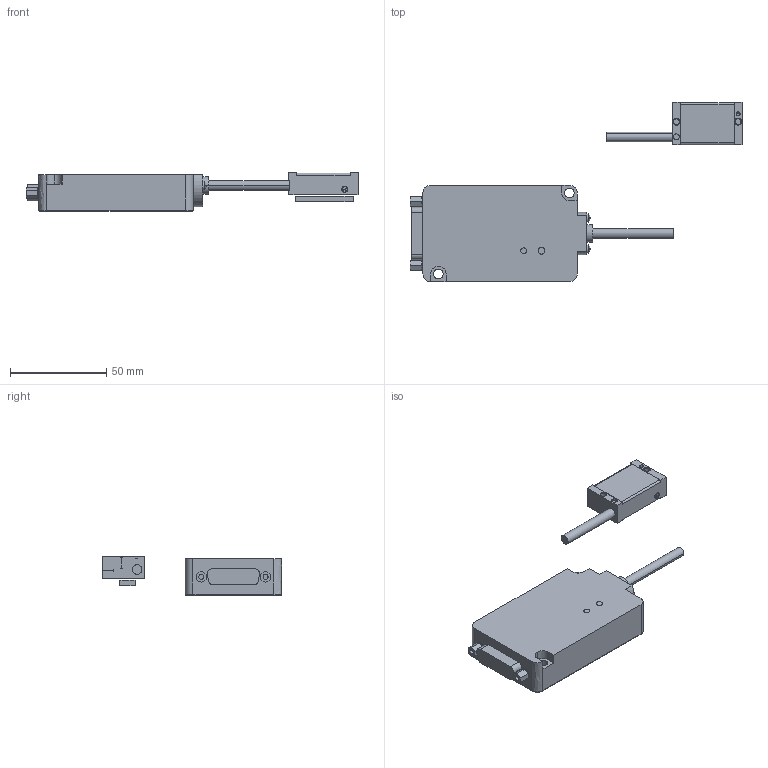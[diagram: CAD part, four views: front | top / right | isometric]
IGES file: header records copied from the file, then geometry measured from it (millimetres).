
Start section: Elysium IGES Interface
Global section: file name: 60H\\Utsu119s\kiyo_cad\data\3D\ST36\HP掲載用_201710\ST36-10.igs; native system: Creo Elements/Direct Modeling 18.1B  29-Sep-2012; preprocessor: Creo Element/Direct IGES_3D V2.2; author: Unknown; organization: Unknown; date: 20171011.153133; units: millimetre
Bounding box: 172.2 x 93 x 19.9 mm (x, y, z)
Volume: 88721.4 mm3; surface area: 19380.5 mm2
Topology: 3 solids, 5 shells, 267 faces, 632 edges, 397 vertices
Faces by surface type: bspline 267
